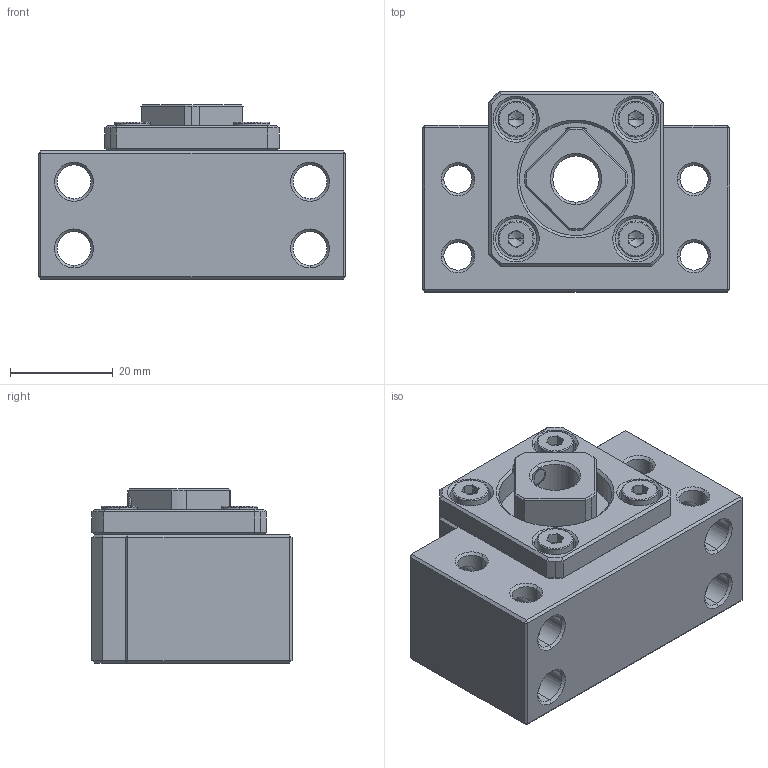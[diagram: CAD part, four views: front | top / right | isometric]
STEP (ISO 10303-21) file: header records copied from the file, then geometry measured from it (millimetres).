
FILE_DESCRIPTION (( 'STEP AP203' ), '1' );
FILE_NAME ('BSGK-10_203.STEP', '2013-02-26T01:16:37', ( '' ), ( '' ), 'SwSTEP 2.0', 'SolidWorks 2012', '' );
FILE_SCHEMA (( 'CONFIG_CONTROL_DESIGN' ));
Length unit declared in the file: millimetre
Products named in the file (1): BSGK-10_203
Bounding box: 60 x 39 x 34 mm (x, y, z)
Volume: 49325 mm3; surface area: 18204.5 mm2
Topology: 1 solids, 17 shells, 473 faces, 1100 edges, 642 vertices
Faces by surface type: plane 169, cylinder 144, cone 120, torus 40
Entity records: 14414 total; most frequent: CARTESIAN_POINT 3531, DIRECTION 2363, ORIENTED_EDGE 2164, EDGE_CURVE 1082, AXIS2_PLACEMENT_3D 926, VERTEX_POINT 642, EDGE_LOOP 528, LINE 511
